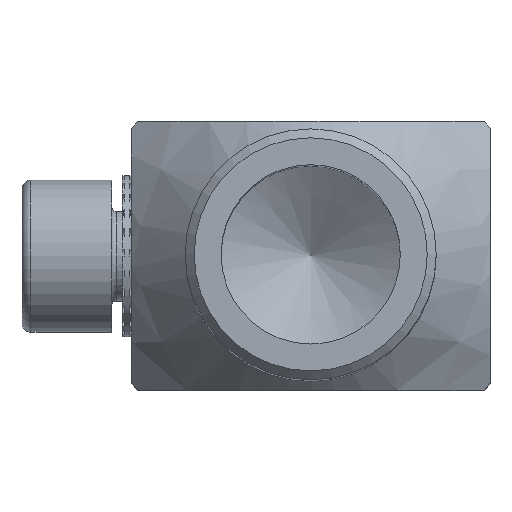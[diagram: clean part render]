
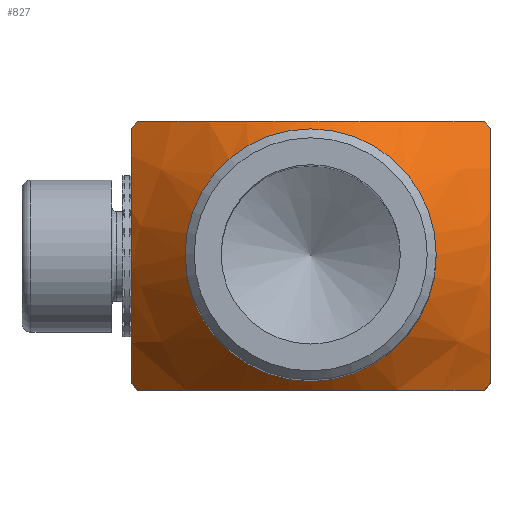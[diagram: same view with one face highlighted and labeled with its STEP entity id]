
A CAD part, top view. The second image highlights one B-rep face of the part: STEP entity #827.
In plain terms, the highlighted conical face has half-angle 45 degrees and reference radius 11.181 mm.
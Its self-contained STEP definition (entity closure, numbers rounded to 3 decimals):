
#827=ADVANCED_FACE('',(#1565,#1566),#1567,.T.);
#1565=FACE_BOUND('',#2305,.T.);
#1566=FACE_OUTER_BOUND('',#2306,.T.);
#1567=CONICAL_SURFACE('',#2307,11.181,0.785);
#2305=EDGE_LOOP('',(#4451));
#2306=EDGE_LOOP('',(#4452,#4453,#4454,#4455,#4456,#4457,#4458,#4459));
#2307=AXIS2_PLACEMENT_3D('',#4460,#4461,#4462);
#4451=ORIENTED_EDGE('',*,*,#5469,.T.);
#4452=ORIENTED_EDGE('',*,*,#5470,.F.);
#4453=ORIENTED_EDGE('',*,*,#5471,.F.);
#4454=ORIENTED_EDGE('',*,*,#5472,.F.);
#4455=ORIENTED_EDGE('',*,*,#5473,.F.);
#4456=ORIENTED_EDGE('',*,*,#5474,.F.);
#4457=ORIENTED_EDGE('',*,*,#5460,.F.);
#4458=ORIENTED_EDGE('',*,*,#5475,.F.);
#4459=ORIENTED_EDGE('',*,*,#5476,.F.);
#4460=CARTESIAN_POINT('',(0.,20.819,0.));
#4461=DIRECTION('',(0.,-1.0,0.));
#4462=DIRECTION('',(0.0,0.,-1.0));
#5460=EDGE_CURVE('',#6760,#6762,#6763,.T.);
#5469=EDGE_CURVE('',#6778,#6778,#6779,.T.);
#5470=EDGE_CURVE('',#6780,#6781,#6782,.T.);
#5471=EDGE_CURVE('',#6783,#6780,#6784,.T.);
#5472=EDGE_CURVE('',#6785,#6783,#6786,.T.);
#5473=EDGE_CURVE('',#6787,#6785,#6788,.T.);
#5474=EDGE_CURVE('',#6762,#6787,#6789,.T.);
#5475=EDGE_CURVE('',#6790,#6760,#6791,.T.);
#5476=EDGE_CURVE('',#6781,#6790,#6792,.T.);
#6760=VERTEX_POINT('',#8509);
#6762=VERTEX_POINT('',#8512);
#6763=B_SPLINE_CURVE_WITH_KNOTS('',3,(#8513,#8514,#8515,#8516,#8517,#8518,#8519,#8520,#8521,#8522,#8523,#8524,#8525,#8526,#8527,#8528,#8529,#8530,#8531,#8532,#8533,#8534,#8535,#8536,#8537,#8538),.UNSPECIFIED.,.F.,.F.,(4,2,2,2,2,2,2,2,2,2,2,2,4),(0.024,0.027,0.029,0.032,0.033,0.035,0.036,0.036,0.038,0.039,0.04,0.043,0.046),.UNSPECIFIED.);
#6778=VERTEX_POINT('',#8561);
#6779=CIRCLE('',#8562,7.0);
#6780=VERTEX_POINT('',#8563);
#6781=VERTEX_POINT('',#8564);
#6782=CIRCLE('',#8565,12.25);
#6783=VERTEX_POINT('',#8566);
#6784=B_SPLINE_CURVE_WITH_KNOTS('',3,(#8567,#8568,#8569,#8570,#8571,#8572,#8573,#8574,#8575,#8576,#8577,#8578,#8579,#8580,#8581,#8582,#8583,#8584,#8585,#8586,#8587,#8588,#8589,#8590,#8591,#8592),.UNSPECIFIED.,.F.,.F.,(4,2,2,2,2,2,2,2,2,2,2,2,4),(0.024,0.027,0.029,0.032,0.033,0.035,0.036,0.036,0.038,0.039,0.04,0.043,0.046),.UNSPECIFIED.);
#6785=VERTEX_POINT('',#8593);
#6786=CIRCLE('',#8594,12.25);
#6787=VERTEX_POINT('',#8595);
#6788=B_SPLINE_CURVE_WITH_KNOTS('',3,(#8596,#8597,#8598,#8599,#8600,#8601,#8602,#8603,#8604,#8605,#8606,#8607,#8608,#8609,#8610,#8611,#8612,#8613,#8614,#8615,#8616,#8617),.UNSPECIFIED.,.F.,.F.,(4,2,2,2,2,2,2,2,2,2,4),(0.02,0.024,0.025,0.026,0.028,0.029,0.03,0.032,0.033,0.034,0.035),.UNSPECIFIED.);
#6789=CIRCLE('',#8618,12.25);
#6790=VERTEX_POINT('',#8619);
#6791=CIRCLE('',#8620,12.25);
#6792=B_SPLINE_CURVE_WITH_KNOTS('',3,(#8621,#8622,#8623,#8624,#8625,#8626,#8627,#8628,#8629,#8630,#8631,#8632,#8633,#8634,#8635,#8636,#8637,#8638,#8639,#8640,#8641,#8642),.UNSPECIFIED.,.F.,.F.,(4,2,2,2,2,2,2,2,2,2,4),(0.02,0.024,0.025,0.026,0.028,0.029,0.03,0.032,0.033,0.034,0.035),.UNSPECIFIED.);
#8509=CARTESIAN_POINT('',(9.686,19.75,7.5));
#8512=CARTESIAN_POINT('',(-9.686,19.75,7.5));
#8513=CARTESIAN_POINT('',(9.686,19.75,7.5));
#8514=CARTESIAN_POINT('',(8.969,20.317,7.5));
#8515=CARTESIAN_POINT('',(8.239,20.871,7.5));
#8516=CARTESIAN_POINT('',(6.749,21.925,7.5));
#8517=CARTESIAN_POINT('',(5.988,22.424,7.5));
#8518=CARTESIAN_POINT('',(4.413,23.322,7.5));
#8519=CARTESIAN_POINT('',(3.598,23.722,7.5));
#8520=CARTESIAN_POINT('',(2.293,24.168,7.5));
#8521=CARTESIAN_POINT('',(1.84,24.29,7.5));
#8522=CARTESIAN_POINT('',(0.936,24.455,7.5));
#8523=CARTESIAN_POINT('',(0.481,24.499,7.5));
#8524=CARTESIAN_POINT('',(-0.206,24.501,7.5));
#8525=CARTESIAN_POINT('',(-0.436,24.491,7.5));
#8526=CARTESIAN_POINT('',(-0.898,24.45,7.5));
#8527=CARTESIAN_POINT('',(-1.13,24.419,7.5));
#8528=CARTESIAN_POINT('',(-1.814,24.297,7.5));
#8529=CARTESIAN_POINT('',(-2.258,24.178,7.5));
#8530=CARTESIAN_POINT('',(-3.13,23.883,7.5));
#8531=CARTESIAN_POINT('',(-3.559,23.707,7.5));
#8532=CARTESIAN_POINT('',(-4.398,23.314,7.5));
#8533=CARTESIAN_POINT('',(-4.805,23.099,7.5));
#8534=CARTESIAN_POINT('',(-5.998,22.419,7.5));
#8535=CARTESIAN_POINT('',(-6.759,21.917,7.5));
#8536=CARTESIAN_POINT('',(-8.246,20.866,7.5));
#8537=CARTESIAN_POINT('',(-8.971,20.315,7.5));
#8538=CARTESIAN_POINT('',(-9.686,19.75,7.5));
#8561=CARTESIAN_POINT('',(0.,25.0,-7.));
#8562=AXIS2_PLACEMENT_3D('',#9785,#9786,#9787);
#8563=CARTESIAN_POINT('',(9.686,19.75,-7.5));
#8564=CARTESIAN_POINT('',(10.0,19.75,-7.075));
#8565=AXIS2_PLACEMENT_3D('',#9788,#9789,#9790);
#8566=CARTESIAN_POINT('',(-9.686,19.75,-7.5));
#8567=CARTESIAN_POINT('',(-9.686,19.75,-7.5));
#8568=CARTESIAN_POINT('',(-8.969,20.317,-7.5));
#8569=CARTESIAN_POINT('',(-8.239,20.871,-7.5));
#8570=CARTESIAN_POINT('',(-6.749,21.925,-7.5));
#8571=CARTESIAN_POINT('',(-5.988,22.424,-7.5));
#8572=CARTESIAN_POINT('',(-4.413,23.322,-7.5));
#8573=CARTESIAN_POINT('',(-3.598,23.722,-7.5));
#8574=CARTESIAN_POINT('',(-2.293,24.168,-7.5));
#8575=CARTESIAN_POINT('',(-1.84,24.29,-7.5));
#8576=CARTESIAN_POINT('',(-0.936,24.455,-7.5));
#8577=CARTESIAN_POINT('',(-0.481,24.499,-7.5));
#8578=CARTESIAN_POINT('',(0.206,24.501,-7.5));
#8579=CARTESIAN_POINT('',(0.436,24.491,-7.5));
#8580=CARTESIAN_POINT('',(0.898,24.45,-7.5));
#8581=CARTESIAN_POINT('',(1.13,24.419,-7.5));
#8582=CARTESIAN_POINT('',(1.814,24.297,-7.5));
#8583=CARTESIAN_POINT('',(2.258,24.178,-7.5));
#8584=CARTESIAN_POINT('',(3.13,23.883,-7.5));
#8585=CARTESIAN_POINT('',(3.559,23.707,-7.5));
#8586=CARTESIAN_POINT('',(4.398,23.314,-7.5));
#8587=CARTESIAN_POINT('',(4.805,23.099,-7.5));
#8588=CARTESIAN_POINT('',(5.998,22.419,-7.5));
#8589=CARTESIAN_POINT('',(6.759,21.917,-7.5));
#8590=CARTESIAN_POINT('',(8.246,20.866,-7.5));
#8591=CARTESIAN_POINT('',(8.971,20.315,-7.5));
#8592=CARTESIAN_POINT('',(9.686,19.75,-7.5));
#8593=CARTESIAN_POINT('',(-10.0,19.75,-7.075));
#8594=AXIS2_PLACEMENT_3D('',#9791,#9792,#9793);
#8595=CARTESIAN_POINT('',(-10.0,19.75,7.075));
#8596=CARTESIAN_POINT('',(-10.0,19.75,7.075));
#8597=CARTESIAN_POINT('',(-10.0,20.379,5.987));
#8598=CARTESIAN_POINT('',(-10.0,20.935,4.865));
#8599=CARTESIAN_POINT('',(-10.0,21.448,3.381));
#8600=CARTESIAN_POINT('',(-10.0,21.541,3.079));
#8601=CARTESIAN_POINT('',(-10.0,21.703,2.471));
#8602=CARTESIAN_POINT('',(-10.0,21.773,2.166));
#8603=CARTESIAN_POINT('',(-10.0,21.941,1.244));
#8604=CARTESIAN_POINT('',(-10.0,22.,0.623));
#8605=CARTESIAN_POINT('',(-10.0,22.,-0.319));
#8606=CARTESIAN_POINT('',(-10.0,21.985,-0.636));
#8607=CARTESIAN_POINT('',(-10.0,21.925,-1.263));
#8608=CARTESIAN_POINT('',(-10.0,21.882,-1.573));
#8609=CARTESIAN_POINT('',(-10.0,21.711,-2.494));
#8610=CARTESIAN_POINT('',(-10.0,21.546,-3.097));
#8611=CARTESIAN_POINT('',(-10.0,21.237,-3.989));
#8612=CARTESIAN_POINT('',(-10.0,21.124,-4.284));
#8613=CARTESIAN_POINT('',(-10.0,20.883,-4.863));
#8614=CARTESIAN_POINT('',(-10.0,20.756,-5.148));
#8615=CARTESIAN_POINT('',(-10.0,20.353,-5.991));
#8616=CARTESIAN_POINT('',(-10.0,20.06,-6.538));
#8617=CARTESIAN_POINT('',(-10.0,19.75,-7.075));
#8618=AXIS2_PLACEMENT_3D('',#9794,#9795,#9796);
#8619=CARTESIAN_POINT('',(10.0,19.75,7.075));
#8620=AXIS2_PLACEMENT_3D('',#9797,#9798,#9799);
#8621=CARTESIAN_POINT('',(10.0,19.75,-7.075));
#8622=CARTESIAN_POINT('',(10.0,20.379,-5.987));
#8623=CARTESIAN_POINT('',(10.0,20.935,-4.865));
#8624=CARTESIAN_POINT('',(10.0,21.448,-3.381));
#8625=CARTESIAN_POINT('',(10.0,21.541,-3.079));
#8626=CARTESIAN_POINT('',(10.0,21.703,-2.471));
#8627=CARTESIAN_POINT('',(10.0,21.773,-2.166));
#8628=CARTESIAN_POINT('',(10.0,21.941,-1.244));
#8629=CARTESIAN_POINT('',(10.0,22.,-0.623));
#8630=CARTESIAN_POINT('',(10.0,22.,0.319));
#8631=CARTESIAN_POINT('',(10.0,21.985,0.636));
#8632=CARTESIAN_POINT('',(10.0,21.925,1.263));
#8633=CARTESIAN_POINT('',(10.0,21.882,1.573));
#8634=CARTESIAN_POINT('',(10.0,21.711,2.494));
#8635=CARTESIAN_POINT('',(10.0,21.546,3.097));
#8636=CARTESIAN_POINT('',(10.0,21.237,3.989));
#8637=CARTESIAN_POINT('',(10.0,21.124,4.284));
#8638=CARTESIAN_POINT('',(10.0,20.883,4.863));
#8639=CARTESIAN_POINT('',(10.0,20.756,5.148));
#8640=CARTESIAN_POINT('',(10.0,20.353,5.991));
#8641=CARTESIAN_POINT('',(10.0,20.06,6.538));
#8642=CARTESIAN_POINT('',(10.0,19.75,7.075));
#9785=CARTESIAN_POINT('',(0.,25.0,0.));
#9786=DIRECTION('',(0.,-1.0,0.));
#9787=DIRECTION('',(0.0,0.,-1.0));
#9788=CARTESIAN_POINT('',(0.,19.75,0.));
#9789=DIRECTION('',(0.,-1.0,0.));
#9790=DIRECTION('',(0.0,0.,-1.0));
#9791=CARTESIAN_POINT('',(0.,19.75,0.));
#9792=DIRECTION('',(0.,-1.0,0.));
#9793=DIRECTION('',(0.0,0.,-1.0));
#9794=CARTESIAN_POINT('',(0.,19.75,0.));
#9795=DIRECTION('',(0.,-1.0,0.));
#9796=DIRECTION('',(0.0,0.,-1.0));
#9797=CARTESIAN_POINT('',(0.,19.75,0.));
#9798=DIRECTION('',(0.,-1.0,0.));
#9799=DIRECTION('',(0.0,0.,-1.0));
